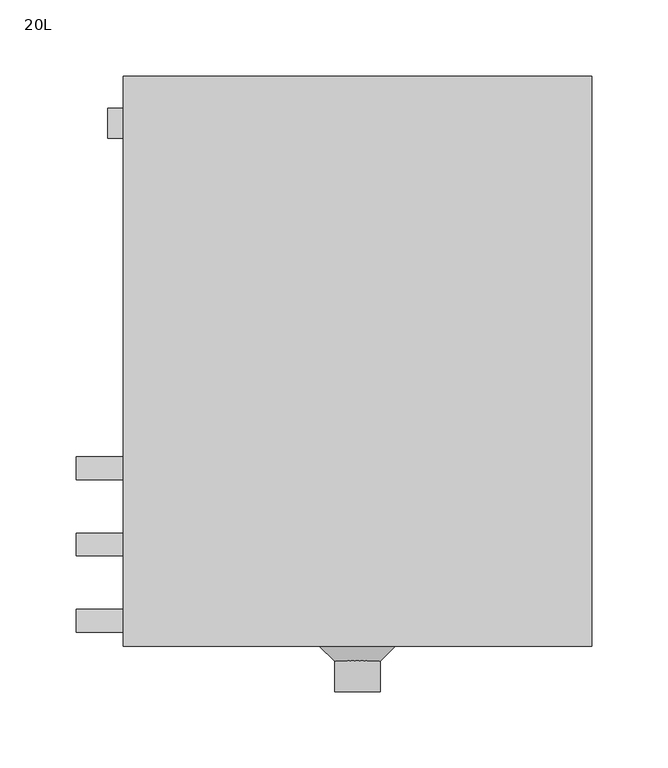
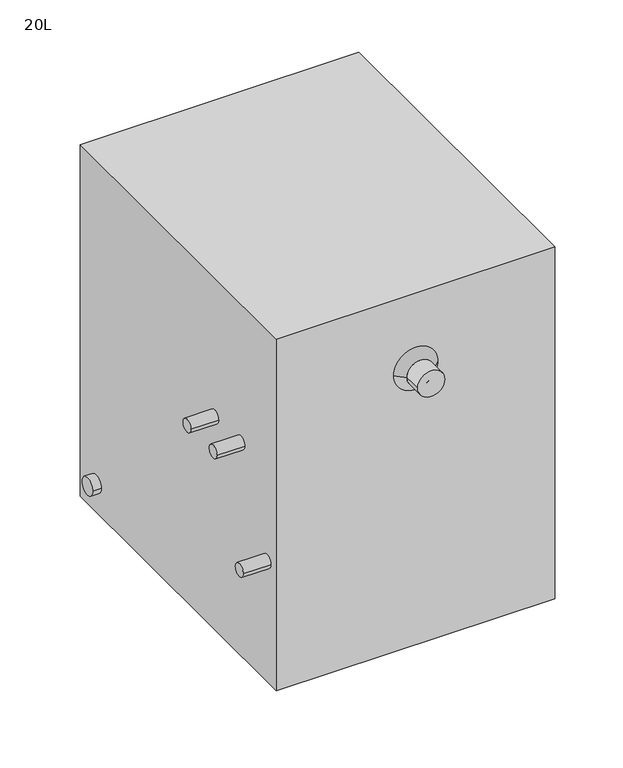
"""IFC4 building model written with IfcOpenShell, lengths in millimetres: sanitary terminal geometry, 03080_WHE_貯湯式電気温水器 : 20L."""

from ifc_helpers import new_model, si_unit, point, frame, frame_2d, origin, origin_with_axes, place, context, project, spatial, polyline, circle_curve, trimmed, segment, composite_curve, outline, extrude, source, transform, mapped, element, save
from ifc_brep_helpers import plane_surface, revolved_surface, advanced_brep


def sanitary_terminal_20l_5d2d8bf7(model_context):
    return source(origin(), model_context, "Body", "SolidModel", [
        extrude(outline(polyline([(154.0, -375.0), (-154.0, -375.0), (-154.0, 0.0), (154.0, 0.0), (154.0, -375.0)])), origin_with_axes(), (0.0, 0.0, 1.0), 411.0),
        extrude(outline(composite_curve([segment(trimmed(circle_curve(frame_2d((323.3, 0.0)), 15.0), [point((323.3, -15.0))], [point((323.3, 15.0))], False, "CARTESIAN"), True, "CONTINUOUS"), segment(trimmed(circle_curve(frame_2d((323.3, 0.0)), 15.0), [point((323.3, 15.0))], [point((323.3, -15.0))], False, "CARTESIAN"), True, "CONTINUOUS")], self_intersect=False)), frame((0.0, -405.0, 0.0), z_axis=(0.0, 1.0, 0.0), x_axis=(0.0, 0.0, 1.0)), (0.0, 0.0, 1.0), 30.0),
        advanced_brep(
        [(-15.0, -385.0, 323.3), (15.0, -385.0, 323.3), (-25.0, -375.0, 323.3), (25.0, -375.0, 323.3)],
        [
            (0, 1, circle_curve(frame((0.0, -385.0, 323.3), z_axis=(0.0, -1.0, 0.0), x_axis=(-1.0, 0.0, 0.0)), 15.0)),
            (1, 0, circle_curve(frame((0.0, -385.0, 323.3), z_axis=(0.0, -1.0, 0.0), x_axis=(1.0, 0.0, 0.0)), 15.0)),
            (2, 3, circle_curve(frame((0.0, -375.0, 323.3), z_axis=(0.0, 1.0, 0.0), x_axis=(1.0, 0.0, 0.0)), 25.0)),
            (3, 2, circle_curve(frame((0.0, -375.0, 323.3), z_axis=(0.0, 1.0, 0.0), x_axis=(-1.0, 0.0, 0.0)), 25.0)),
            (3, 1),
            (0, 2),
        ],
        [
            plane_surface(frame((0.0, -385.0, 323.3), z_axis=(0.0, -1.0, 0.0), x_axis=(0.0, 0.0, -1.0))),
            plane_surface(frame((0.0, -375.0, 323.3), z_axis=(0.0, 1.0, 0.0), x_axis=(0.0, 0.0, -1.0))),
            revolved_surface(polyline([(-15.0, -385.0, 323.3), (-25.0, -375.0, 323.3)]), (0.0, -400.0, 323.3), (0.0, 1.0, 0.0)),
            revolved_surface(polyline([(15.0, -385.0, 323.3), (25.0, -375.0, 323.3)]), (0.0, -400.0, 323.3), (0.0, 1.0, 0.0)),
        ],
        [
            (0, [[1, 2]]),
            (1, [[3, 4]]),
            (2, [[-4, 5, -1, 6]]),
            (3, [[-3, -6, -2, -5]]),
        ],
    ),
        extrude(outline(composite_curve([segment(trimmed(circle_curve(frame_2d((-308.0214701, 250.0)), 7.5), [point((-315.5214701, 250.0))], [point((-300.5214701, 250.0))], False, "CARTESIAN"), True, "CONTINUOUS"), segment(trimmed(circle_curve(frame_2d((-308.0214701, 250.0)), 7.5), [point((-300.5214701, 250.0))], [point((-315.5214701, 250.0))], False, "CARTESIAN"), True, "CONTINUOUS")], self_intersect=False)), frame((-185.0, 0.0, 0.0), z_axis=(1.0, 0.0, 0.0), x_axis=(0.0, 1.0, 0.0)), (0.0, 0.0, 1.0), 31.0),
        extrude(outline(composite_curve([segment(trimmed(circle_curve(frame_2d((-358.2679608, 142.0)), 7.5), [point((-365.7679608, 142.0))], [point((-350.7679608, 142.0))], False, "CARTESIAN"), True, "CONTINUOUS"), segment(trimmed(circle_curve(frame_2d((-358.2679608, 142.0)), 7.5), [point((-350.7679608, 142.0))], [point((-365.7679608, 142.0))], False, "CARTESIAN"), True, "CONTINUOUS")], self_intersect=False)), frame((-185.0, 0.0, 0.0), z_axis=(1.0, 0.0, 0.0), x_axis=(0.0, 1.0, 0.0)), (0.0, 0.0, 1.0), 31.0),
        extrude(outline(composite_curve([segment(trimmed(circle_curve(frame_2d((-258.0, 250.0)), 7.5), [point((-265.5, 250.0))], [point((-250.5, 250.0))], False, "CARTESIAN"), True, "CONTINUOUS"), segment(trimmed(circle_curve(frame_2d((-258.0, 250.0)), 7.5), [point((-250.5, 250.0))], [point((-265.5, 250.0))], False, "CARTESIAN"), True, "CONTINUOUS")], self_intersect=False)), frame((-185.0, 0.0, 0.0), z_axis=(1.0, 0.0, 0.0), x_axis=(0.0, 1.0, 0.0)), (0.0, 0.0, 1.0), 31.0),
        extrude(outline(composite_curve([segment(trimmed(circle_curve(frame_2d((-31.0, 34.0)), 10.0), [point((-41.0, 34.0))], [point((-21.0, 34.0))], False, "CARTESIAN"), True, "CONTINUOUS"), segment(trimmed(circle_curve(frame_2d((-31.0, 34.0)), 10.0), [point((-21.0, 34.0))], [point((-41.0, 34.0))], False, "CARTESIAN"), True, "CONTINUOUS")], self_intersect=False)), frame((-164.0, 0.0, 0.0), z_axis=(1.0, 0.0, 0.0), x_axis=(0.0, 1.0, 0.0)), (0.0, 0.0, 1.0), 10.0),
    ])


if __name__ == "__main__":
    model = new_model("IFC4")
    model_context = context("Model", 3, world=origin())
    ifc_project = project(units=[si_unit("LENGTHUNIT", "METRE", prefix="MILLI")], contexts=[model_context])
    site = spatial("IfcSite", under=ifc_project)
    building = spatial("IfcBuilding", under=site)
    placement = place(None, origin())
    sanitary_terminal_20l_shape = sanitary_terminal_20l_5d2d8bf7(model_context)
    element("IfcSanitaryTerminal", 1, ObjectType="03080_WHE_貯湯式電気温水器 : 20L", at=placement, inside=building, context=model_context, shape_type="MappedRepresentation", body=[
        mapped(sanitary_terminal_20l_shape, transform((0.0, 0.0, 0.0), x_axis=(1.0, 0.0, 0.0), y_axis=(0.0, 1.0, 0.0), z_axis=(0.0, 0.0, 1.0))),
    ])
    save(model, "model.ifc")
